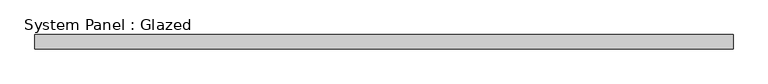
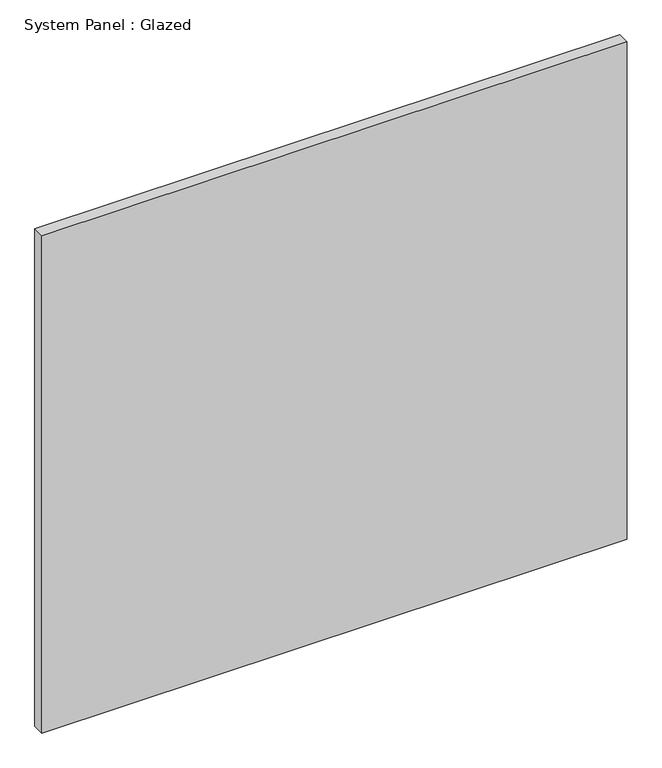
"""IFC4 building model written with IfcOpenShell, lengths in millimetres: plate geometry, System Panel : Glazed."""

from ifc_helpers import new_model, si_unit, origin, origin_with_axes, place, context, project, spatial, polyline, outline, extrude, source, transform, mapped, element, save


def system_panel_glazed_7753dd60(model_context):
    return source(origin(), model_context, "Body", "SweptSolid", [
        extrude(outline(polyline([(625.475, 19.05), (-625.475, 19.05), (-625.475, 44.45), (625.475, 44.45), (625.475, 19.05)])), origin_with_axes(), (0.0, 0.0, 1.0), 1123.95),
    ])


if __name__ == "__main__":
    model = new_model("IFC4")
    model_context = context("Model", 3, world=origin())
    ifc_project = project(units=[si_unit("LENGTHUNIT", "METRE", prefix="MILLI")], contexts=[model_context])
    site = spatial("IfcSite", under=ifc_project)
    building = spatial("IfcBuilding", under=site)
    placement = place(None, origin())
    system_panel_glazed_shape = system_panel_glazed_7753dd60(model_context)
    element("IfcPlate", 1, ObjectType="System Panel : Glazed", at=placement, inside=building, context=model_context, shape_type="MappedRepresentation", body=[
        mapped(system_panel_glazed_shape, transform((0.0, 0.0, 0.0), x_axis=(1.0, 0.0, 0.0), y_axis=(0.0, 1.0, 0.0), z_axis=(0.0, 0.0, 1.0))),
    ])
    save(model, "model.ifc")
